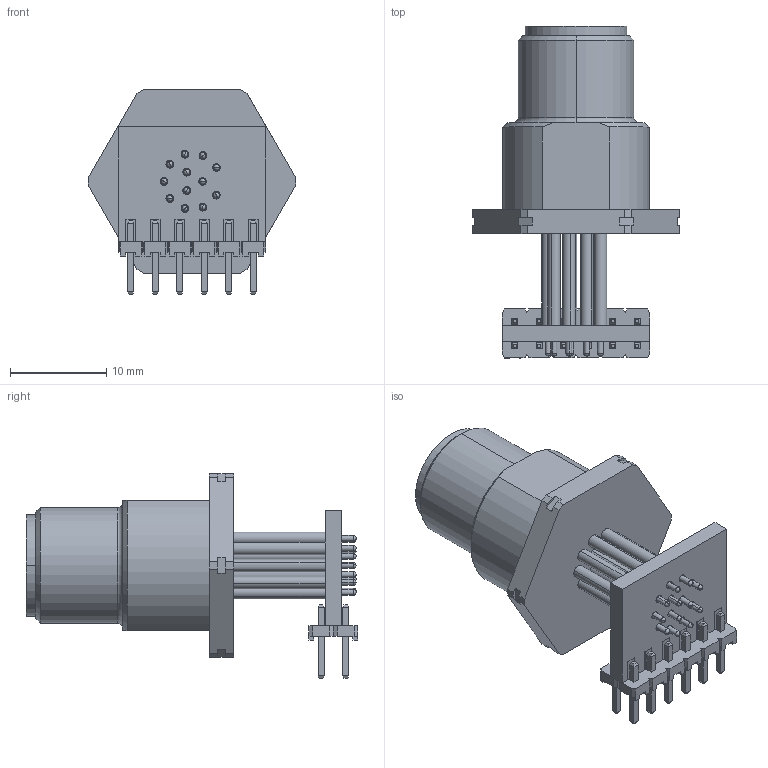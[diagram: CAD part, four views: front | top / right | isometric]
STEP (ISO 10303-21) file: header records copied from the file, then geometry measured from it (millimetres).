
FILE_DESCRIPTION (( 'STEP AP203' ), '1' );
FILE_NAME ('WFSD_12-PCB.step', '2015-05-28T14:21:49', ( 'Turck User' ), ( '' ), 'SwSTEP 2.0', 'SolidWorks 2014', '' );
FILE_SCHEMA (( 'CONFIG_CONTROL_DESIGN' ));
Length unit declared in the file: millimetre
Products named in the file (2): WFSD_12-PCB
Bounding box: 21.5 x 34.39 x 21.2 mm (x, y, z)
Volume: 3547.6 mm3; surface area: 3778.2 mm2
Topology: 1 solids, 2 shells, 709 faces, 1752 edges, 1096 vertices
Faces by surface type: plane 514, cylinder 111, cone 32, torus 28, sphere 24
Entity records: 20445 total; most frequent: CARTESIAN_POINT 3499, DIRECTION 3460, ORIENTED_EDGE 3408, EDGE_CURVE 1704, LINE 1362, VECTOR 1362, VERTEX_POINT 1072, AXIS2_PLACEMENT_3D 1049
